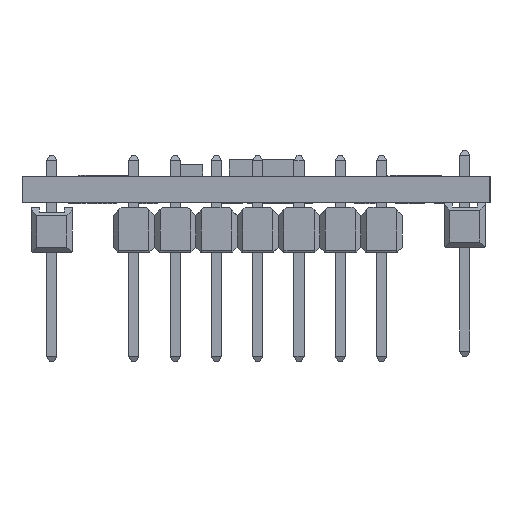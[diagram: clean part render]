
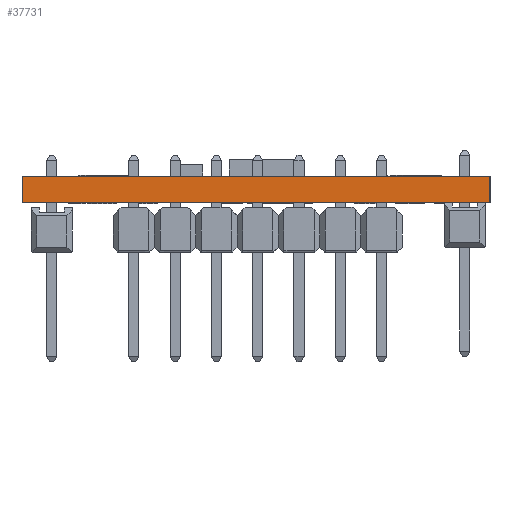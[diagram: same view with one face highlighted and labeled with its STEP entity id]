
A CAD part, left-side view. The second image highlights one B-rep face of the part: STEP entity #37731.
In plain terms, the highlighted planar face has unit normal (-1, 0, 0).
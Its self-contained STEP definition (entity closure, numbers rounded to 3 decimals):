
#4650=FACE_OUTER_BOUND('',#6930,.T.);
#6930=EDGE_LOOP('',(#34309,#34310,#34311,#34312));
#10565=LINE('',#64658,#14503);
#10778=LINE('',#66963,#14716);
#10867=LINE('',#67622,#14805);
#10870=LINE('',#67627,#14808);
#14503=VECTOR('',#46651,10.);
#14716=VECTOR('',#47074,10.);
#14805=VECTOR('',#47345,10.);
#14808=VECTOR('',#47352,10.);
#17945=VERTEX_POINT('',#64656);
#17946=VERTEX_POINT('',#64657);
#18252=VERTEX_POINT('',#66961);
#18253=VERTEX_POINT('',#66962);
#23143=EDGE_CURVE('',#17945,#17946,#10565,.T.);
#23575=EDGE_CURVE('',#18252,#18253,#10778,.T.);
#23733=EDGE_CURVE('',#18252,#17945,#10867,.T.);
#23736=EDGE_CURVE('',#18253,#17946,#10870,.T.);
#34309=ORIENTED_EDGE('',*,*,#23575,.T.);
#34310=ORIENTED_EDGE('',*,*,#23736,.T.);
#34311=ORIENTED_EDGE('',*,*,#23143,.F.);
#34312=ORIENTED_EDGE('',*,*,#23733,.F.);
#35696=PLANE('',#39687);
#37731=ADVANCED_FACE('',(#4650),#35696,.T.);
#39687=AXIS2_PLACEMENT_3D('',#67628,#47353,#47354);
#46651=DIRECTION('',(0.,-1.,0.));
#47074=DIRECTION('',(0.,-1.,0.));
#47345=DIRECTION('',(0.,0.,1.));
#47352=DIRECTION('',(0.,0.,1.));
#47353=DIRECTION('center_axis',(-1.,0.,0.));
#47354=DIRECTION('ref_axis',(0.,-1.,0.));
#64656=CARTESIAN_POINT('',(89.971,53.878,8.27));
#64657=CARTESIAN_POINT('',(89.971,25.095,8.27));
#64658=CARTESIAN_POINT('',(89.971,53.878,8.27));
#66961=CARTESIAN_POINT('',(89.971,53.878,6.67));
#66962=CARTESIAN_POINT('',(89.971,25.095,6.67));
#66963=CARTESIAN_POINT('',(89.971,53.878,6.67));
#67622=CARTESIAN_POINT('',(89.971,53.878,6.67));
#67627=CARTESIAN_POINT('',(89.971,25.095,6.67));
#67628=CARTESIAN_POINT('Origin',(89.971,53.878,6.67));
